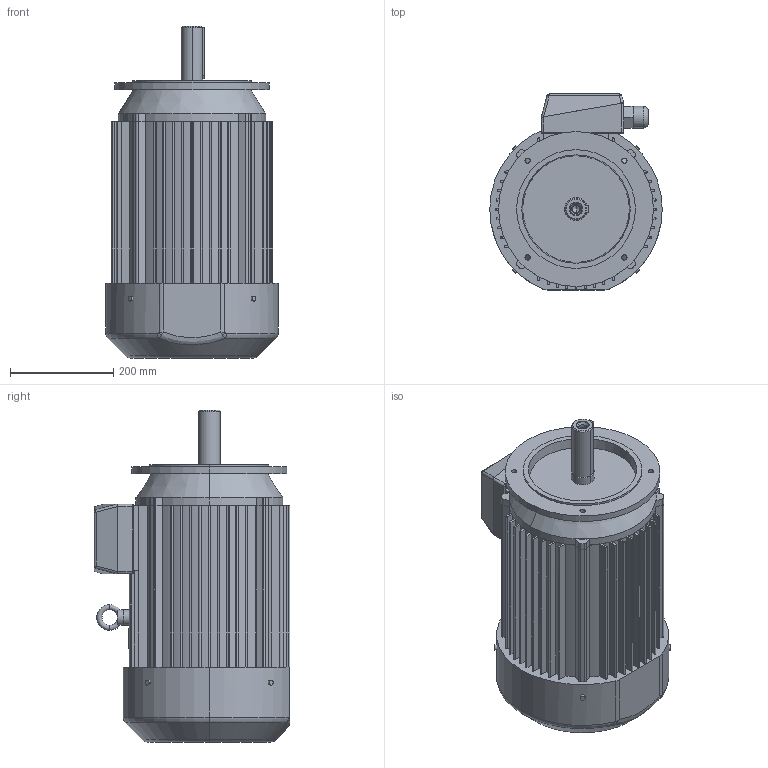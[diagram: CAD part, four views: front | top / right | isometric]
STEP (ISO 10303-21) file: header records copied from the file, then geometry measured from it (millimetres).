
FILE_DESCRIPTION (( 'STEP AP203' ), '1' );
FILE_NAME ('3SIEK160M;L-B14-C1.STEP', '2014-07-22T09:09:15', ( '' ), ( '' ), 'SwSTEP 2.0', 'SolidWorks 2003064', '' );
FILE_SCHEMA (( 'CONFIG_CONTROL_DESIGN' ));
Length unit declared in the file: millimetre
Products named in the file (1): 3SIEK160M;L-B14-C1
Bounding box: 334 x 379 x 643 mm (x, y, z)
Volume: 38707126.3 mm3; surface area: 1387487.1 mm2
Topology: 14 solids, 14 shells, 390 faces, 1015 edges, 649 vertices
Faces by surface type: cylinder 179, plane 169, torus 17, cone 16, bspline 5, sphere 4
Entity records: 15055 total; most frequent: CARTESIAN_POINT 5215, DIRECTION 2131, ORIENTED_EDGE 2014, EDGE_CURVE 1007, AXIS2_PLACEMENT_3D 779, VERTEX_POINT 649, LINE 573, VECTOR 573
